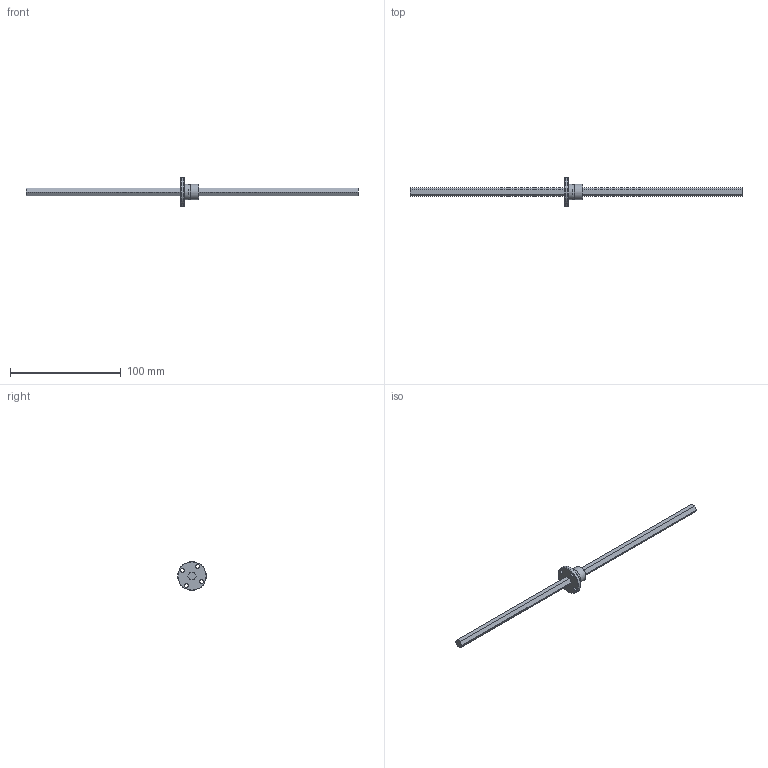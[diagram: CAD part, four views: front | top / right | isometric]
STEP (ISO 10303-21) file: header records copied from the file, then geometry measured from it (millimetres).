
FILE_DESCRIPTION((''),'2;1');
FILE_NAME('D:\製品 (図面)\カタログ用3D\ネジ関連\STEP形式\HTF\HTF7.stp','2010-06-01T16:46:46',('Tsuchiya'),(''),'Autodesk Inventor 10','Autodesk Inventor 10','');
FILE_SCHEMA(('AUTOMOTIVE_DESIGN { 1 0 10303 214 1 1 1 1 }'));
Length unit declared in the file: millimetre
Products named in the file (3): HTF7; HTF71; HTF72
Assembly tree (2 placements, depth 2):
  HTF7
    HTF71
    HTF72
Bounding box: 300 x 26 x 26 mm (x, y, z)
Volume: 15460 mm3; surface area: 9600 mm2
Topology: 2 solids, 2 shells, 39 faces, 96 edges, 64 vertices
Faces by surface type: plane 25, cylinder 9, cone 2, bspline 2, torus 1
Full cylindrical faces by diameter (mm): 1 x1, 3.5 x4, 8.6 x1, 14 x2, 26 x1
Entity records: 1341 total; most frequent: CARTESIAN_POINT 405, DIRECTION 178, ORIENTED_EDGE 152, EDGE_CURVE 76, EDGE_LOOP 68, AXIS2_PLACEMENT_3D 62, VERTEX_POINT 58, VECTOR 54
